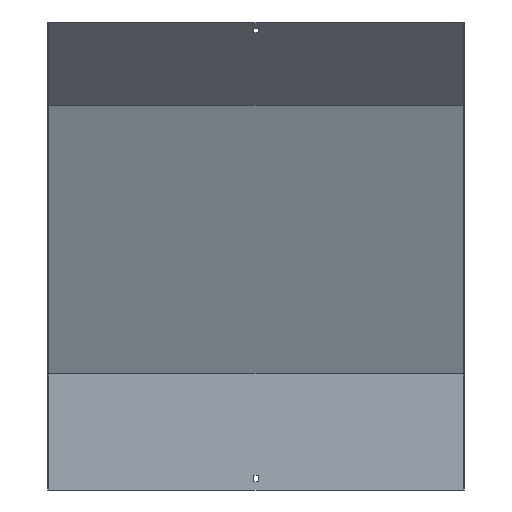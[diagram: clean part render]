
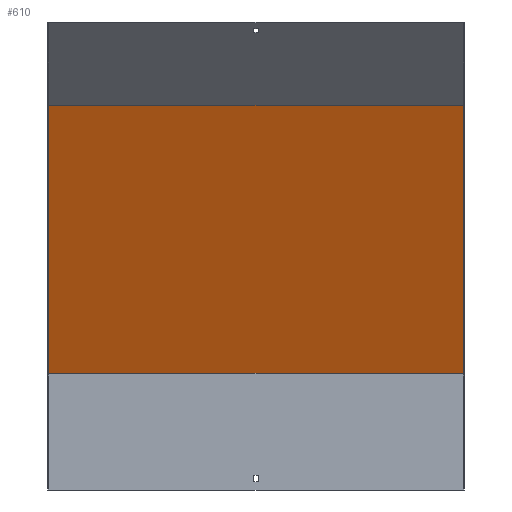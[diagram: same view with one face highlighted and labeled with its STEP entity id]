
A CAD part, front view. The second image highlights one B-rep face of the part: STEP entity #610.
In plain terms, the highlighted planar face has unit normal (0, -0.924, -0.383).
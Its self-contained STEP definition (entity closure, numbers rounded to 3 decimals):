
#71 = EDGE_LOOP ( 'NONE', ( #535, #348, #470, #741 ) ) ;
#76 = LINE ( 'NONE', #606, #542 ) ;
#79 = CARTESIAN_POINT ( 'NONE',  ( 301.5, 18.5, 168.68 ) ) ;
#83 = DIRECTION ( 'NONE',  ( 0., -0.383, 0.924 ) ) ;
#141 = LINE ( 'NONE', #402, #365 ) ;
#159 = AXIS2_PLACEMENT_3D ( 'NONE', #834, #784, #448 ) ;
#182 = VECTOR ( 'NONE', #393, 1000. ) ;
#183 = FACE_OUTER_BOUND ( 'NONE', #71, .T. ) ;
#217 = CARTESIAN_POINT ( 'NONE',  ( 300., 18.5, 168.68 ) ) ;
#250 = DIRECTION ( 'NONE',  ( 0., -0.383, 0.924 ) ) ;
#264 = VECTOR ( 'NONE', #250, 1000. ) ;
#348 = ORIENTED_EDGE ( 'NONE', *, *, #695, .F. ) ;
#365 = VECTOR ( 'NONE', #671, 1000. ) ;
#377 = EDGE_CURVE ( 'NONE', #743, #398, #76, .T. ) ;
#378 = LINE ( 'NONE', #648, #264 ) ;
#393 = DIRECTION ( 'NONE',  ( -1., 0., 0. ) ) ;
#398 = VERTEX_POINT ( 'NONE', #479 ) ;
#402 = CARTESIAN_POINT ( 'NONE',  ( 301.5, -142.365, 557.042 ) ) ;
#448 = DIRECTION ( 'NONE',  ( 0., 0.383, -0.924 ) ) ;
#470 = ORIENTED_EDGE ( 'NONE', *, *, #377, .T. ) ;
#479 = CARTESIAN_POINT ( 'NONE',  ( 300., -142.365, 557.042 ) ) ;
#524 = VERTEX_POINT ( 'NONE', #759 ) ;
#535 = ORIENTED_EDGE ( 'NONE', *, *, #665, .F. ) ;
#538 = LINE ( 'NONE', #79, #182 ) ;
#542 = VECTOR ( 'NONE', #83, 1000. ) ;
#577 = PLANE ( 'NONE',  #159 ) ;
#606 = CARTESIAN_POINT ( 'NONE',  ( 300., 75.428, 31.243 ) ) ;
#610 = ADVANCED_FACE ( 'NONE', ( #183 ), #577, .T. ) ;
#648 = CARTESIAN_POINT ( 'NONE',  ( -300., 75.428, 31.243 ) ) ;
#665 = EDGE_CURVE ( 'NONE', #809, #524, #378, .T. ) ;
#671 = DIRECTION ( 'NONE',  ( -1., 0., 0. ) ) ;
#695 = EDGE_CURVE ( 'NONE', #743, #809, #538, .T. ) ;
#740 = CARTESIAN_POINT ( 'NONE',  ( -300., 18.5, 168.68 ) ) ;
#741 = ORIENTED_EDGE ( 'NONE', *, *, #788, .T. ) ;
#743 = VERTEX_POINT ( 'NONE', #217 ) ;
#759 = CARTESIAN_POINT ( 'NONE',  ( -300., -142.365, 557.042 ) ) ;
#784 = DIRECTION ( 'NONE',  ( 0., -0.924, -0.383 ) ) ;
#788 = EDGE_CURVE ( 'NONE', #398, #524, #141, .T. ) ;
#809 = VERTEX_POINT ( 'NONE', #740 ) ;
#834 = CARTESIAN_POINT ( 'NONE',  ( 301.5, 17.092, 172.08 ) ) ;
